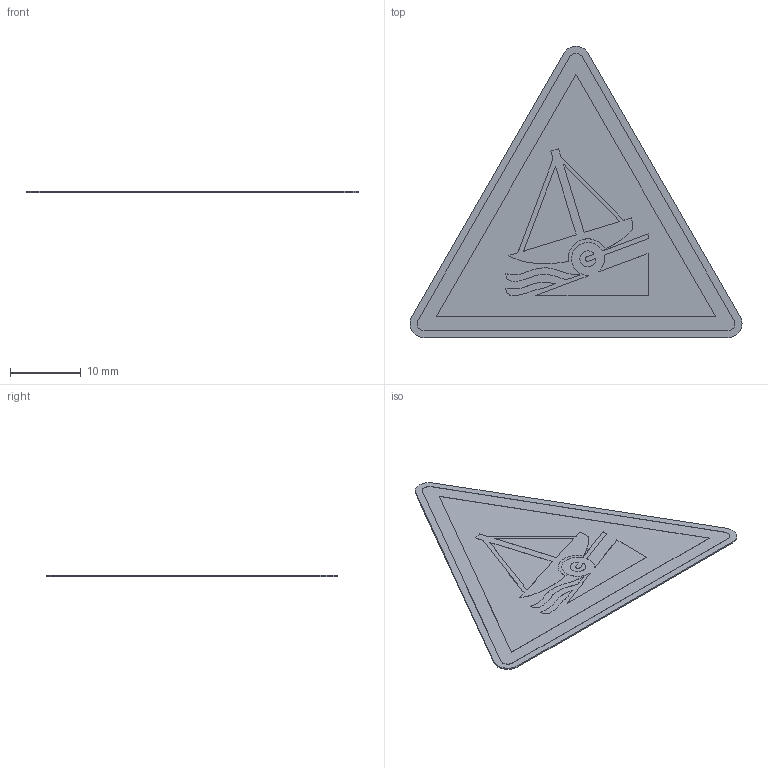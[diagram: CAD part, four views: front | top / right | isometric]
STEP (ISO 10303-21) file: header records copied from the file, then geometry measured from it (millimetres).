
FILE_DESCRIPTION (( 'STEP AP214' ), '1' );
FILE_NAME ('W044_Warnung vor Slipanlage.STEP', '2022-03-03T14:13:30', ( '' ), ( '' ), 'SwSTEP 2.0', 'SolidWorks 2021', '' );
FILE_SCHEMA (( 'AUTOMOTIVE_DESIGN' ));
Length unit declared in the file: millimetre
Products named in the file (1): W044_Warnung vor Slipanlage
Bounding box: 47.07 x 41.3 x 0.22 mm (x, y, z)
Volume: 221.5 mm3; surface area: 2184.3 mm2
Topology: 1 solids, 1 shells, 217 faces, 618 edges, 412 vertices
Faces by surface type: plane 164, cylinder 53
Entity records: 9307 total; most frequent: CARTESIAN_POINT 1248, ORIENTED_EDGE 1236, DIRECTION 1160, EDGE_CURVE 618, VECTOR 512, LINE 512, VERTEX_POINT 412, AXIS2_PLACEMENT_3D 324
